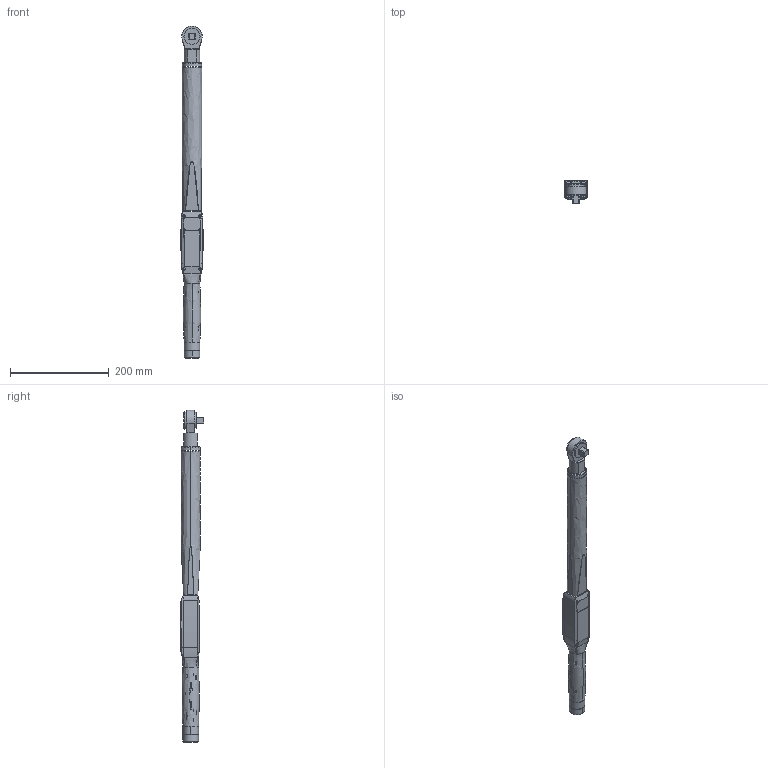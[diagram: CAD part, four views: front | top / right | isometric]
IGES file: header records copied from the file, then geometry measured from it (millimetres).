
Start section:  PTC IGES file: 6159352120_dim.igs
Global section: file name: 6159352120_dim.igs; native system: Creo Parametric by PTC Inc.; preprocessor: 2021072; author: S00000450; organization: Unknown; date: 20210629.120428; units: millimetre
Bounding box: 45.16 x 47.45 x 673.68 mm (x, y, z)
Surface area: 96350.5 mm2 (no closed solid volume)
Topology: 0 solids, 0 shells, 242 faces, 1129 edges, 1129 vertices
Faces by surface type: bspline 146, revolution 88, extrusion 8
